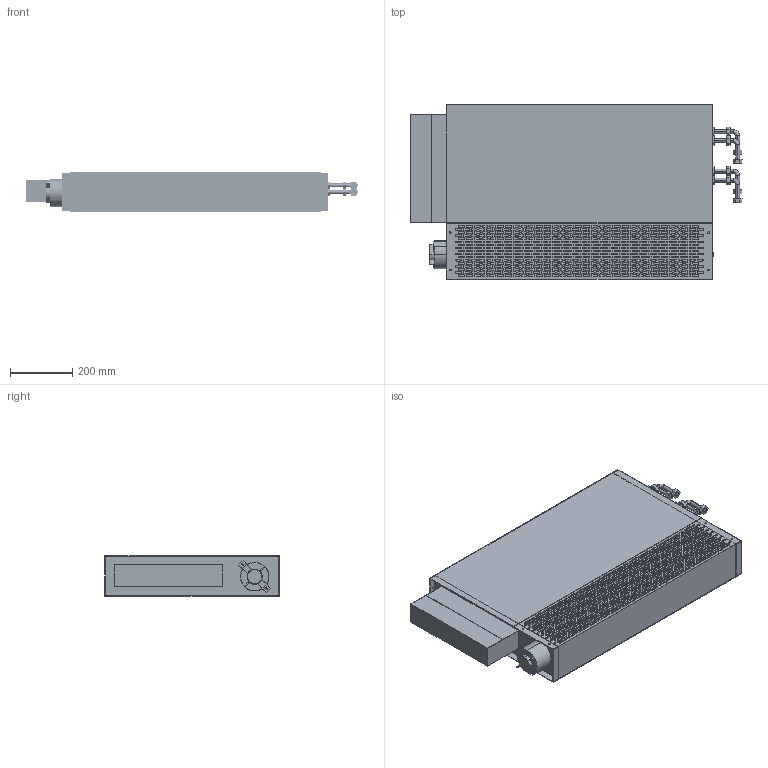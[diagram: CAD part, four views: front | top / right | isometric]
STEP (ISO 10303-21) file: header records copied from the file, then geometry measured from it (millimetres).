
FILE_DESCRIPTION (( 'STEP AP214' ), '1' );
FILE_NAME ('PFWSLA-03-4pipe_v2.STEP', '2024-10-22T13:52:12', ( '' ), ( '' ), 'SwSTEP 2.0', 'SolidWorks 2023', '' );
FILE_SCHEMA (( 'AUTOMOTIVE_DESIGN' ));
Length unit declared in the file: inch
Products named in the file (1): PFWSLA-03-4pipe_v2
Bounding box: 1070.06 x 561.98 x 130.18 mm (x, y, z)
Volume: 17587941.3 mm3; surface area: 4049119.9 mm2
Topology: 32 solids, 32 shells, 4404 faces, 12216 edges, 8128 vertices
Faces by surface type: plane 2622, cylinder 1774, torus 8
Entity records: 143884 total; most frequent: CARTESIAN_POINT 24749, DIRECTION 24602, ORIENTED_EDGE 24432, EDGE_CURVE 12216, LINE 8640, VECTOR 8640, VERTEX_POINT 8128, AXIS2_PLACEMENT_3D 7981
